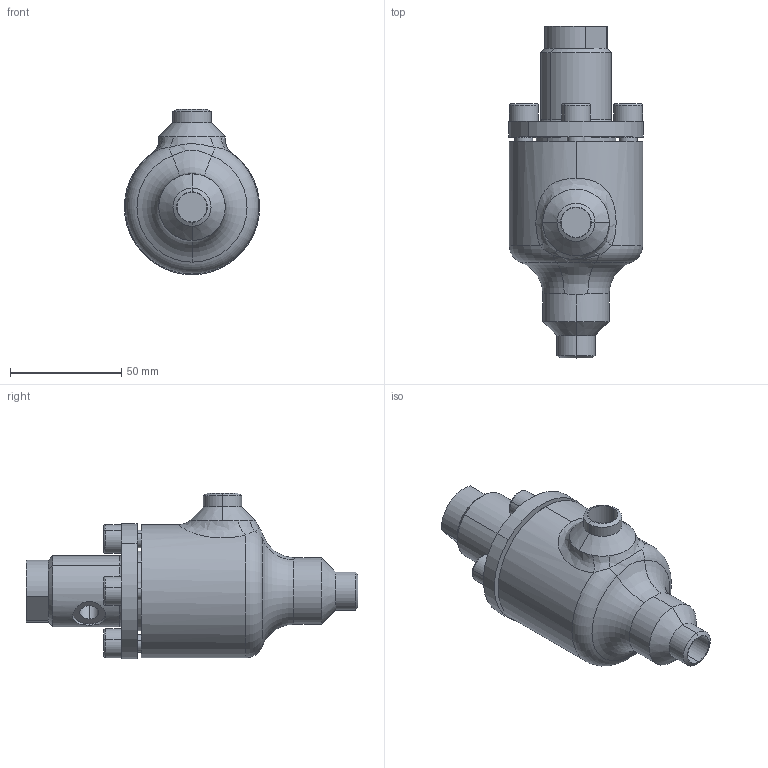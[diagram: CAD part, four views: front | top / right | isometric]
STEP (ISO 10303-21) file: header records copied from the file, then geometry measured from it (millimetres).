
FILE_DESCRIPTION (( 'STEP AP214' ), '1' );
FILE_NAME ('RVD4280xC08-DN10_1-3bar.STEP', '2007-01-10T14:54:39', ( 'Herr Grams' ), ( 'AWP GmbH' ), 'SwSTEP 2.0', 'SolidWorks 2002296', '' );
FILE_SCHEMA (( 'AUTOMOTIVE_DESIGN' ));
Length unit declared in the file: millimetre
Products named in the file (6): RVD4280xC08-DN10_1-3bar; RVD42700K10_Deck+Schr-DN10-20_1-3bar_Standard; Zylinderschraube-DIN912_M 8x 16; Deckel42700K10-DN10-20_1-3bar_PS40_Standard; Gehäuse16400-DN010_Standard; Verschlußschr4270xE10-DN10-20_1-3bar_M10x  46_1bar
Assembly tree (8 placements, depth 3):
  RVD4280xC08-DN10_1-3bar
    Verschlußschr4270xE10-DN10-20_1-3bar_M10x  46_1bar
    RVD42700K10_Deck+Schr-DN10-20_1-3bar_Standard
      Deckel42700K10-DN10-20_1-3bar_PS40_Standard
      Zylinderschraube-DIN912_M 8x 16  x4
    Gehäuse16400-DN010_Standard
Bounding box: 60.77 x 149.5 x 74.38 mm (x, y, z)
Volume: 233545.9 mm3; surface area: 47276.3 mm2
Topology: 7 solids, 7 shells, 177 faces, 377 edges, 237 vertices
Faces by surface type: cylinder 70, plane 64, cone 24, torus 13, bspline 6
Entity records: 13391 total; most frequent: CARTESIAN_POINT 10210, DIRECTION 660, ORIENTED_EDGE 526, AXIS2_PLACEMENT_3D 280, EDGE_CURVE 263, VERTEX_POINT 165, EDGE_LOOP 152, CIRCLE 151
